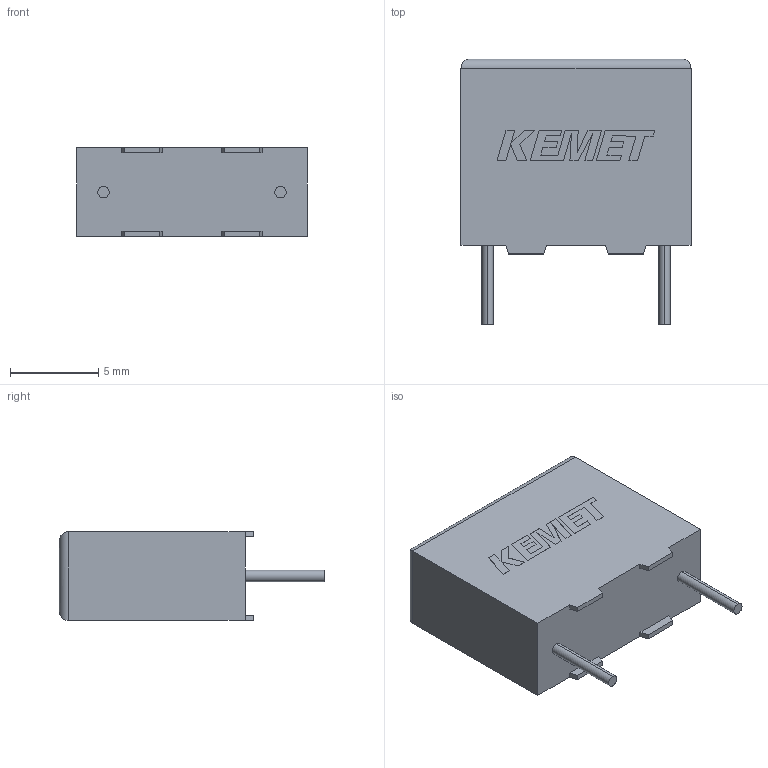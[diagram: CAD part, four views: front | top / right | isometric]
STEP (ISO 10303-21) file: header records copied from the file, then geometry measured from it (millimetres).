
FILE_DESCRIPTION (( 'STEP AP214' ), '1' );
FILE_NAME ('CFR_RBG_13X11X5_L13H11T5S10LL4F0.65G0.5.STEP', '2017-12-06T16:20:16', ( '' ), ( '' ), 'SwSTEP 2.0', 'SolidWorks 2014', '' );
FILE_SCHEMA (( 'AUTOMOTIVE_DESIGN' ));
Length unit declared in the file: millimetre
Products named in the file (1): CFR_RBG_13X11X5_L13H11T5S10LL4F0.65G0.5
Bounding box: 13 x 15 x 5 mm (x, y, z)
Volume: 684.9 mm3; surface area: 546.3 mm2
Topology: 4 solids, 4 shells, 89 faces, 233 edges, 154 vertices
Faces by surface type: plane 81, cylinder 8
Entity records: 3096 total; most frequent: CARTESIAN_POINT 489, ORIENTED_EDGE 466, DIRECTION 417, EDGE_CURVE 233, LINE 221, VECTOR 221, VERTEX_POINT 154, AXIS2_PLACEMENT_3D 98
